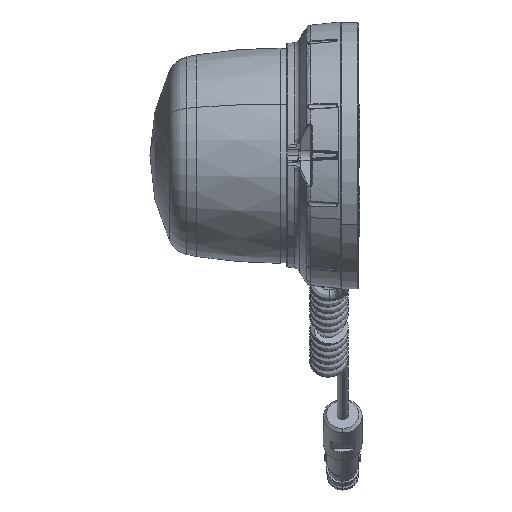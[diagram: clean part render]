
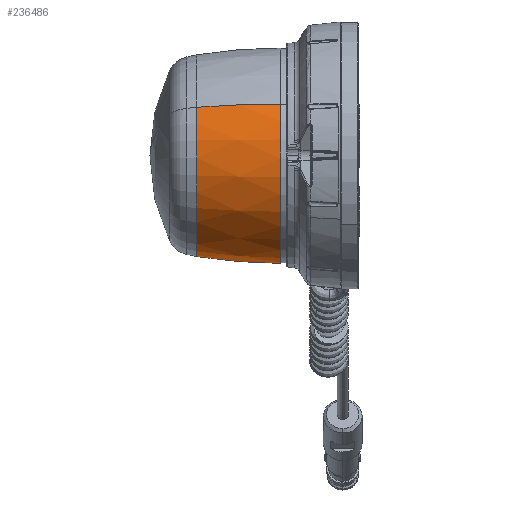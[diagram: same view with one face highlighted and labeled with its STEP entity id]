
A CAD part, left-side view. The second image highlights one B-rep face of the part: STEP entity #236486.
In plain terms, the highlighted face is a revolution surface.
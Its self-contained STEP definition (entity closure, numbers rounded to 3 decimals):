
#231539=AXIS2_PLACEMENT_3D('Circle Axis2P3D',#231537,#231538,$) ;
#236477=AXIS2_PLACEMENT_3D('Circle Axis2P3D',#236475,#236476,$) ;
#231537=CARTESIAN_POINT('Axis2P3D Location',(0.,-13.,0.)) ;
#231541=CARTESIAN_POINT('Vertex',(58.57,-13.,-31.997)) ;
#231543=CARTESIAN_POINT('Vertex',(-58.57,-13.,31.997)) ;
#236415=CARTESIAN_POINT('Control Point',(54.879,39.,-29.98)) ;
#236416=CARTESIAN_POINT('Control Point',(55.378,35.918,-30.253)) ;
#236417=CARTESIAN_POINT('Control Point',(55.813,32.823,-30.491)) ;
#236418=CARTESIAN_POINT('Control Point',(56.192,29.734,-30.698)) ;
#236419=CARTESIAN_POINT('Control Point',(56.973,22.467,-31.124)) ;
#236420=CARTESIAN_POINT('Control Point',(57.526,15.169,-31.427)) ;
#236421=CARTESIAN_POINT('Control Point',(57.781,11.036,-31.566)) ;
#236422=CARTESIAN_POINT('Control Point',(58.144,3.724,-31.764)) ;
#236423=CARTESIAN_POINT('Control Point',(58.38,-3.595,-31.893)) ;
#236424=CARTESIAN_POINT('Control Point',(58.46,-6.73,-31.937)) ;
#236425=CARTESIAN_POINT('Control Point',(58.523,-9.865,-31.971)) ;
#236426=CARTESIAN_POINT('Control Point',(58.57,-13.,-31.997)) ;
#236427=CARTESIAN_POINT('Vertex',(54.879,39.,-29.98)) ;
#236434=CARTESIAN_POINT('Vertex',(-54.879,39.,29.98)) ;
#236438=CARTESIAN_POINT('Control Point',(-54.879,39.,29.98)) ;
#236439=CARTESIAN_POINT('Control Point',(-55.378,35.918,30.253)) ;
#236440=CARTESIAN_POINT('Control Point',(-55.813,32.823,30.491)) ;
#236441=CARTESIAN_POINT('Control Point',(-56.192,29.734,30.698)) ;
#236442=CARTESIAN_POINT('Control Point',(-56.973,22.467,31.124)) ;
#236443=CARTESIAN_POINT('Control Point',(-57.526,15.169,31.427)) ;
#236444=CARTESIAN_POINT('Control Point',(-57.781,11.036,31.566)) ;
#236445=CARTESIAN_POINT('Control Point',(-58.144,3.724,31.764)) ;
#236446=CARTESIAN_POINT('Control Point',(-58.38,-3.595,31.893)) ;
#236447=CARTESIAN_POINT('Control Point',(-58.46,-6.73,31.937)) ;
#236448=CARTESIAN_POINT('Control Point',(-58.523,-9.865,31.971)) ;
#236449=CARTESIAN_POINT('Control Point',(-58.57,-13.,31.997)) ;
#236459=CARTESIAN_POINT('Control Point',(62.534,39.,0.)) ;
#236460=CARTESIAN_POINT('Control Point',(63.103,35.918,0.)) ;
#236461=CARTESIAN_POINT('Control Point',(63.599,32.823,0.)) ;
#236462=CARTESIAN_POINT('Control Point',(64.031,29.734,0.)) ;
#236463=CARTESIAN_POINT('Control Point',(64.92,22.467,0.)) ;
#236464=CARTESIAN_POINT('Control Point',(65.551,15.169,0.)) ;
#236465=CARTESIAN_POINT('Control Point',(65.841,11.036,0.)) ;
#236466=CARTESIAN_POINT('Control Point',(66.255,3.724,0.)) ;
#236467=CARTESIAN_POINT('Control Point',(66.524,-3.595,0.)) ;
#236468=CARTESIAN_POINT('Control Point',(66.615,-6.73,0.)) ;
#236469=CARTESIAN_POINT('Control Point',(66.686,-9.865,0.)) ;
#236470=CARTESIAN_POINT('Control Point',(66.74,-13.,0.)) ;
#236471=CARTESIAN_POINT('Axis1P Location',(0.,53.131,0.)) ;
#236475=CARTESIAN_POINT('Axis2P3D Location',(0.,39.,0.)) ;
#231538=DIRECTION('Axis2P3D Direction',(-0.,1.,0.)) ;
#236472=DIRECTION('Axis1P Direction',(-0.,1.,0.)) ;
#236476=DIRECTION('Axis2P3D Direction',(-0.,1.,0.)) ;
#236473=AXIS1_PLACEMENT('Revolution Surface Axis1P',#236471,#236472) ;
#236481=ORIENTED_EDGE('',*,*,#231545,.T.) ;
#236482=ORIENTED_EDGE('',*,*,#236450,.T.) ;
#236483=ORIENTED_EDGE('',*,*,#236479,.F.) ;
#236484=ORIENTED_EDGE('',*,*,#236429,.F.) ;
#236486=ADVANCED_FACE('Body.33',(#236485),#236474,.F.) ;
#236414=B_SPLINE_CURVE_WITH_KNOTS('',5,(#236415,#236416,#236417,#236418,#236419,#236420,#236421,#236422,#236423,#236424,#236425,#236426),.UNSPECIFIED.,.F.,.U.,(6,3,3,6),(0.,22.154,51.737,73.882),.UNSPECIFIED.) ;
#236437=B_SPLINE_CURVE_WITH_KNOTS('',5,(#236438,#236439,#236440,#236441,#236442,#236443,#236444,#236445,#236446,#236447,#236448,#236449),.UNSPECIFIED.,.F.,.U.,(6,3,3,6),(0.,22.154,51.737,73.882),.UNSPECIFIED.) ;
#236458=B_SPLINE_CURVE_WITH_KNOTS('',5,(#236459,#236460,#236461,#236462,#236463,#236464,#236465,#236466,#236467,#236468,#236469,#236470),.UNSPECIFIED.,.F.,.U.,(6,3,3,6),(0.,22.154,51.737,73.882),.UNSPECIFIED.) ;
#231540=CIRCLE('generated circle',#231539,66.74) ;
#236478=CIRCLE('generated circle',#236477,62.534) ;
#231545=EDGE_CURVE('',#231542,#231544,#231540,.T.) ;
#236429=EDGE_CURVE('',#231542,#236428,#236414,.F.) ;
#236450=EDGE_CURVE('',#231544,#236435,#236437,.F.) ;
#236479=EDGE_CURVE('',#236428,#236435,#236478,.T.) ;
#236480=EDGE_LOOP('',(#236481,#236482,#236483,#236484)) ;
#236485=FACE_OUTER_BOUND('',#236480,.T.) ;
#236474=SURFACE_OF_REVOLUTION('Surface of Revolution',#236458,#236473) ;
#231542=VERTEX_POINT('',#231541) ;
#231544=VERTEX_POINT('',#231543) ;
#236428=VERTEX_POINT('',#236427) ;
#236435=VERTEX_POINT('',#236434) ;
